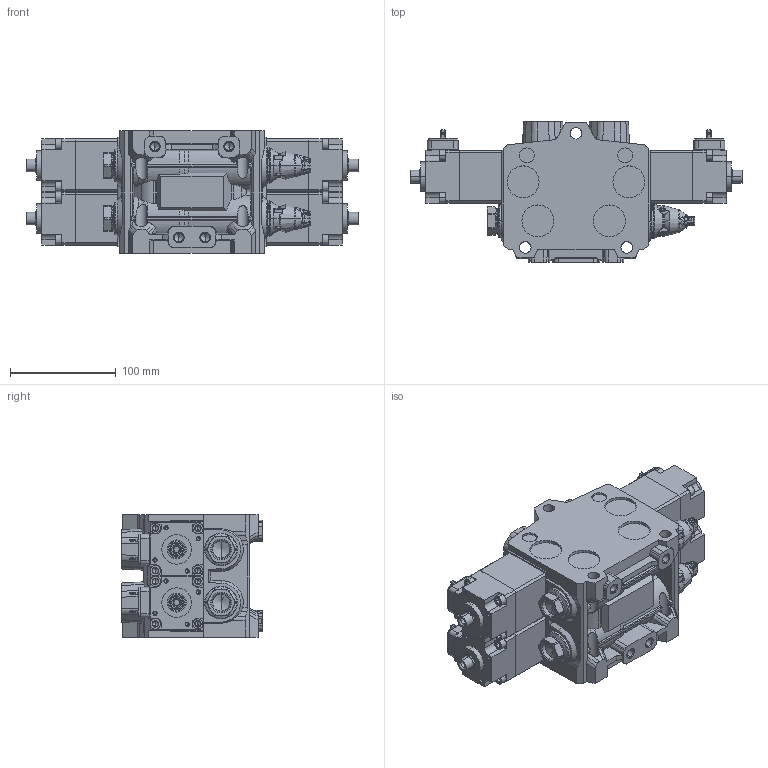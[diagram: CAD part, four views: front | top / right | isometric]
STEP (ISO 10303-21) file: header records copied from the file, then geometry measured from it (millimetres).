
FILE_DESCRIPTION (( 'STEP AP203' ), '1' );
FILE_NAME ('S-V3272.STEP', '2018-05-21T14:28:56', ( '' ), ( '' ), 'SwSTEP 2.0', 'SolidWorks 2018', '' );
FILE_SCHEMA (( 'CONFIG_CONTROL_DESIGN' ));
Products named in the file (1): S-V3272
Bounding box: 314 x 133 x 116.3 mm (x, y, z)
Surface area: 297877.1 mm2 (no closed solid volume)
Topology: 0 solids, 43 shells, 4117 faces, 10459 edges, 6320 vertices
Faces by surface type: plane 1418, cylinder 1167, bspline 876, cone 456, torus 164, sphere 36
Entity records: 160572 total; most frequent: CARTESIAN_POINT 71173, ORIENTED_EDGE 20142, DIRECTION 16475, EDGE_CURVE 10223, VERTEX_POINT 6320, AXIS2_PLACEMENT_3D 5980, LINE 4515, VECTOR 4515
